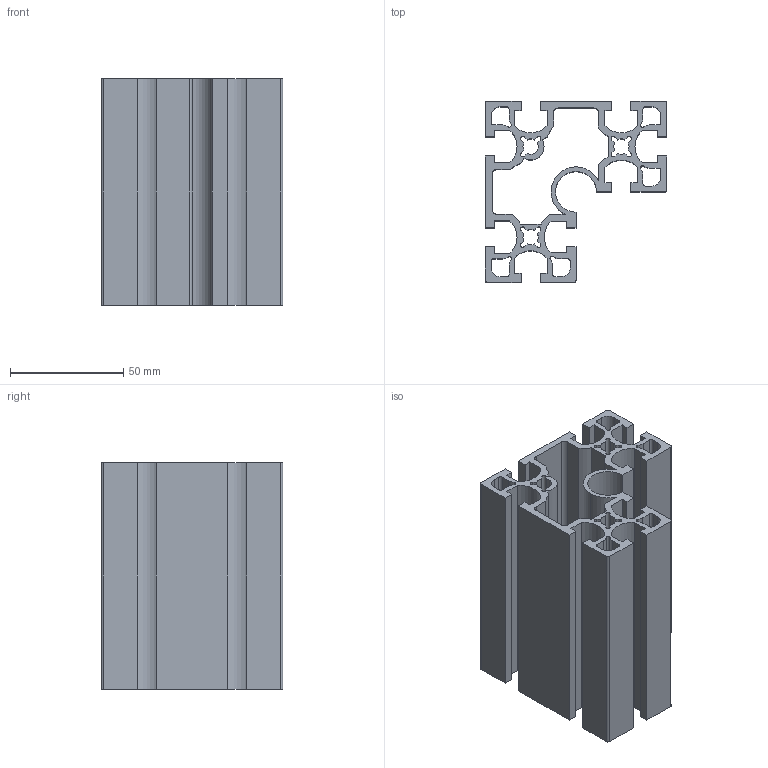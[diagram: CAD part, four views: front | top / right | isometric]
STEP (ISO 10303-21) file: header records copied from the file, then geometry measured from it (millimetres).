
FILE_DESCRIPTION (( 'STEP AP203' ), '1' );
FILE_NAME ('WS8840-8.STEP', '2024-02-19T05:23:57', ( '' ), ( '' ), 'SwSTEP 2.0', 'SolidWorks 2022', '' );
FILE_SCHEMA (( 'CONFIG_CONTROL_DESIGN' ));
Length unit declared in the file: millimetre
Products named in the file (1): WS8840-8
Bounding box: 80 x 80 x 100 mm (x, y, z)
Volume: 150893.6 mm3; surface area: 112532.7 mm2
Topology: 1 solids, 1 shells, 228 faces, 678 edges, 452 vertices
Faces by surface type: plane 124, cylinder 104
Entity records: 7803 total; most frequent: CARTESIAN_POINT 1359, ORIENTED_EDGE 1356, DIRECTION 1344, EDGE_CURVE 678, LINE 470, VECTOR 470, VERTEX_POINT 452, AXIS2_PLACEMENT_3D 437
